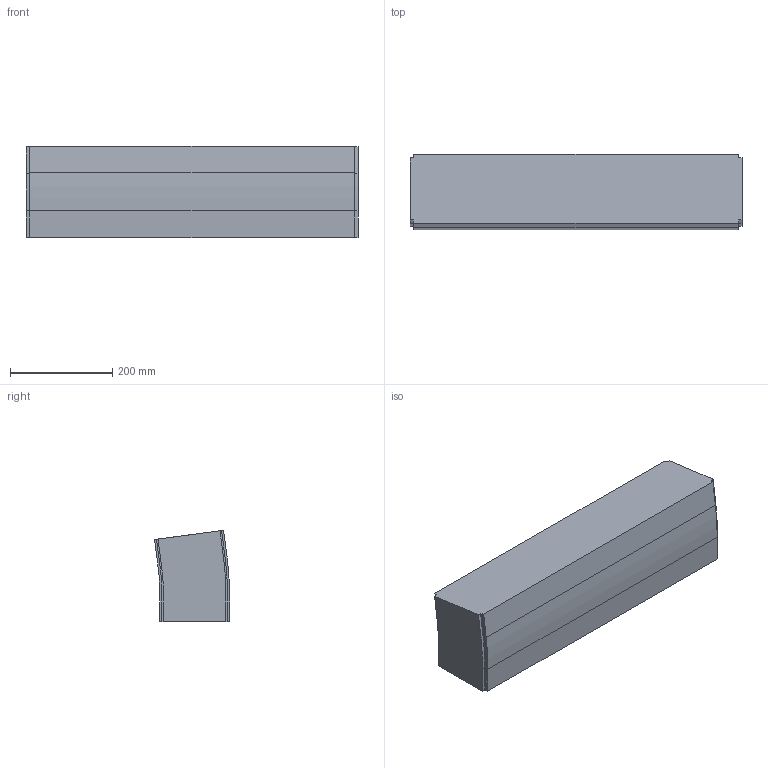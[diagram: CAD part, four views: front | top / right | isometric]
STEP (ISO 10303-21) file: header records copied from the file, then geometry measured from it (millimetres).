
FILE_DESCRIPTION (( 'STEP AP214' ), '1' );
FILE_NAME ('FS-MTC2-150-INOX verticaalbocht.650 7,5°.STEP', '2017-02-08T12:42:05', ( '' ), ( '' ), 'SwSTEP 2.0', 'SolidWorks 2016', '' );
FILE_SCHEMA (( 'AUTOMOTIVE_DESIGN' ));
Length unit declared in the file: millimetre
Products named in the file (1): FS-MTC2-150-INOX verticaalbocht.650 7,5°
Bounding box: 650.5 x 147.05 x 178.72 mm (x, y, z)
Volume: 15101387.7 mm3; surface area: 445482.6 mm2
Topology: 1 solids, 1 shells, 42 faces, 120 edges, 80 vertices
Faces by surface type: plane 32, cylinder 10
Entity records: 1398 total; most frequent: CARTESIAN_POINT 243, ORIENTED_EDGE 240, DIRECTION 226, EDGE_CURVE 120, LINE 100, VECTOR 100, VERTEX_POINT 80, AXIS2_PLACEMENT_3D 63
